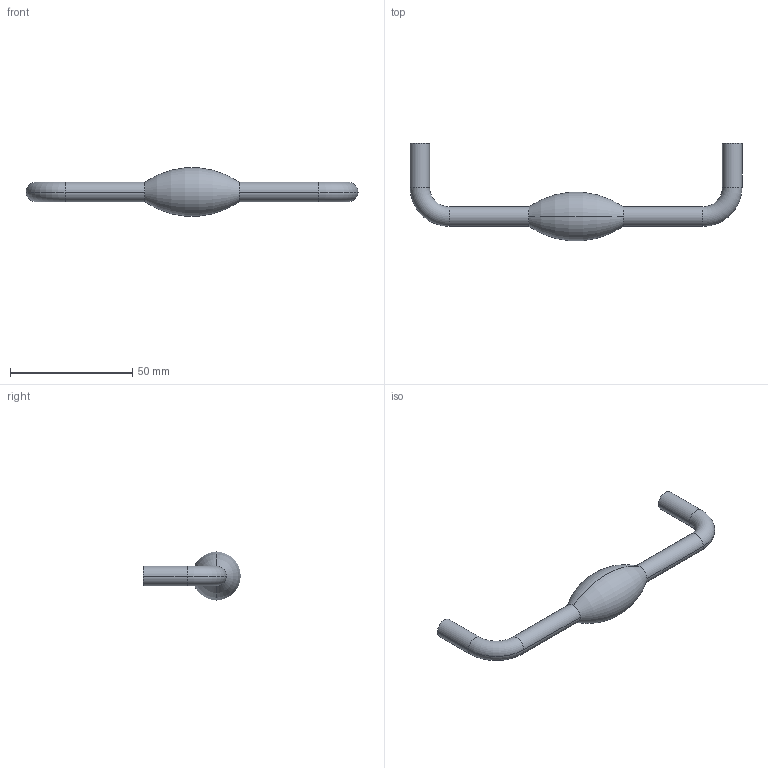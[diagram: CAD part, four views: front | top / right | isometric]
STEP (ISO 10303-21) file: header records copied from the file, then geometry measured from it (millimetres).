
FILE_DESCRIPTION( ( '' ), '1' );
FILE_NAME( 'D:/1.AUTOCAD EXPORT/Group 10/sheet_10_1/9070943.stp', '2013-10-17T04:25:13', ( '' ), ( '' ), ' ', ' ', ' ' );
FILE_SCHEMA( ( 'automotive_design' ) );
Length unit declared in the file: millimetre
Products named in the file (1): 1
Bounding box: 136 x 39.87 x 19.75 mm (x, y, z)
Volume: 15092.9 mm3; surface area: 5856.4 mm2
Topology: 1 solids, 1 shells, 22 faces, 46 edges, 28 vertices
Faces by surface type: cylinder 12, torus 6, plane 4
Entity records: 1170 total; most frequent: DIRECTION 126, STYLED_ITEM 97, PRESENTATION_STYLE_ASSIGNMENT 97, CARTESIAN_POINT 97, COLOUR_RGB 97, ORIENTED_EDGE 92, AXIS2_PLACEMENT_3D 57, EDGE_CURVE 46
